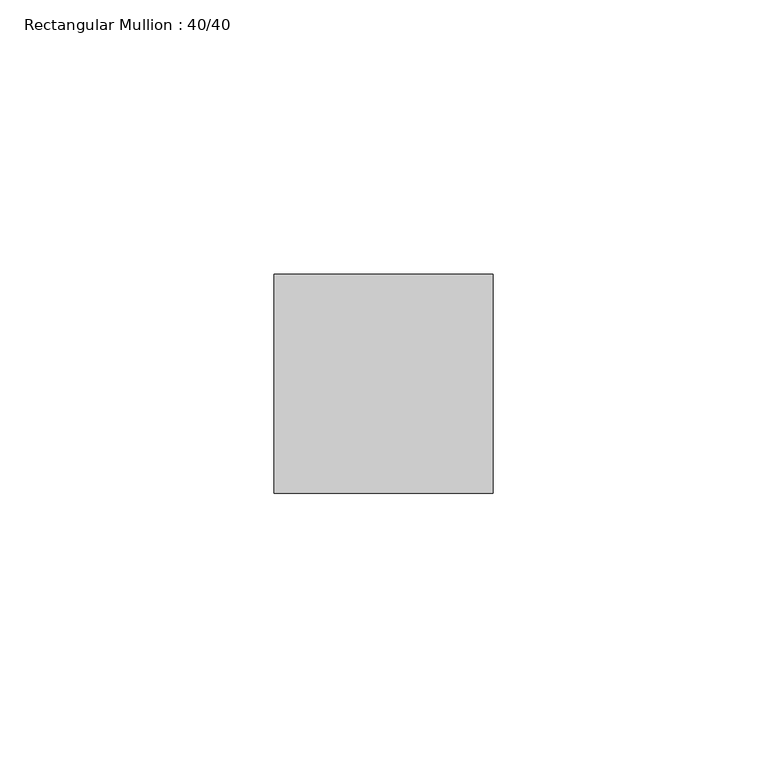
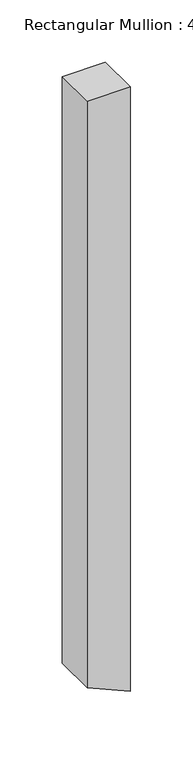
"""IFC4 building model written with IfcOpenShell, lengths in millimetres: member geometry, Rectangular Mullion : 40/40."""

from ifc_helpers import new_model, si_unit, frame, origin, place, context, project, spatial, polyline, outline, extrude, source, transform, mapped, element, save


def rectangular_mullion_40_40_e9a3077c(model_context):
    return source(origin(), model_context, "Body", "SweptSolid", [
        extrude(outline(polyline([(0.0, 0.0), (0.0, -40.0), (-574.9984389, -40.0), (-592.631942, 0.0), (0.0, 0.0)])), frame((0.0, -20.0, 0.0), z_axis=(0.0, 1.0, 0.0), x_axis=(0.0, 0.0, 1.0)), (0.0, 0.0, 1.0), 40.0),
    ])


if __name__ == "__main__":
    model = new_model("IFC4")
    model_context = context("Model", 3, world=origin())
    ifc_project = project(units=[si_unit("LENGTHUNIT", "METRE", prefix="MILLI")], contexts=[model_context])
    site = spatial("IfcSite", under=ifc_project)
    building = spatial("IfcBuilding", under=site)
    placement = place(None, origin())
    rectangular_mullion_40_40_shape = rectangular_mullion_40_40_e9a3077c(model_context)
    element("IfcMember", 1, ObjectType="Rectangular Mullion : 40/40", at=placement, inside=building, context=model_context, shape_type="MappedRepresentation", body=[
        mapped(rectangular_mullion_40_40_shape, transform((0.0, 0.0, 0.0), x_axis=(1.0, 0.0, 0.0), y_axis=(0.0, 1.0, 0.0), z_axis=(0.0, 0.0, 1.0))),
    ])
    save(model, "model.ifc")
